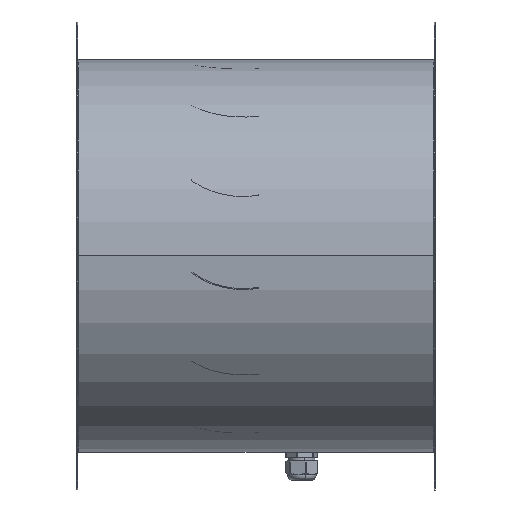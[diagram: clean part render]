
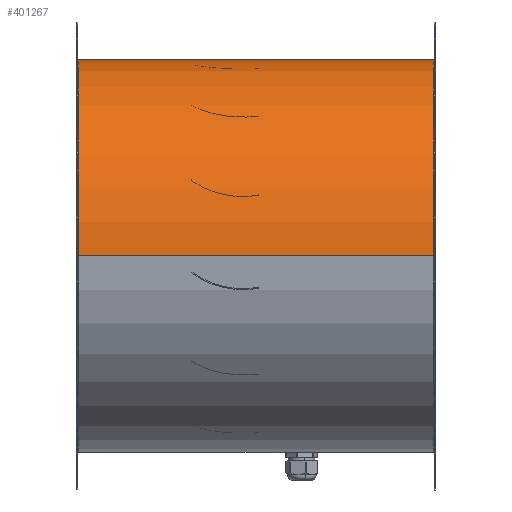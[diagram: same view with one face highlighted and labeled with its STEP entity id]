
A CAD part, top view. The second image highlights one B-rep face of the part: STEP entity #401267.
In plain terms, the highlighted cylindrical face has radius 201.25 mm (diameter 402.5 mm), a partial arc.
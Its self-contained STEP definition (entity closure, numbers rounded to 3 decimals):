
#7981 = CARTESIAN_POINT ( 'NONE',  ( -98.5, 0., 0. ) ) ;
#13992 = EDGE_CURVE ( 'NONE', #287199, #491824, #405591, .T. ) ;
#18054 = CIRCLE ( 'NONE', #318979, 201.25 ) ;
#22826 = EDGE_CURVE ( 'NONE', #661999, #25257, #532189, .T. ) ;
#25257 = VERTEX_POINT ( 'NONE', #758361 ) ;
#32754 = CARTESIAN_POINT ( 'NONE',  ( -98.5, 3.019, -201.227 ) ) ;
#41231 = DIRECTION ( 'NONE',  ( 1., 0., 0. ) ) ;
#49930 = CARTESIAN_POINT ( 'NONE',  ( -98.5, 3., -201.228 ) ) ;
#51093 = VECTOR ( 'NONE', #198356, 1000. ) ;
#55771 = DIRECTION ( 'NONE',  ( 1., 0., 0. ) ) ;
#64533 = CARTESIAN_POINT ( 'NONE',  ( -98.5, 0., 201.25 ) ) ;
#70181 = CARTESIAN_POINT ( 'NONE',  ( -98.5, 0., 0. ) ) ;
#76104 = DIRECTION ( 'NONE',  ( 0., 0., 1. ) ) ;
#85365 = CYLINDRICAL_SURFACE ( 'NONE', #192333, 201.25 ) ;
#93560 = LINE ( 'NONE', #266554, #51093 ) ;
#94176 = EDGE_CURVE ( 'NONE', #661999, #718602, #396982, .T. ) ;
#98494 = CARTESIAN_POINT ( 'NONE',  ( 264.5, 0., 0. ) ) ;
#100643 = LINE ( 'NONE', #64533, #641347 ) ;
#113373 = VERTEX_POINT ( 'NONE', #321137 ) ;
#127204 = CIRCLE ( 'NONE', #815843, 201.25 ) ;
#166608 = DIRECTION ( 'NONE',  ( 0., 0., 1. ) ) ;
#177507 = CARTESIAN_POINT ( 'NONE',  ( -98.5, 0., -201.25 ) ) ;
#178767 = VECTOR ( 'NONE', #41231, 1000. ) ;
#184152 = VERTEX_POINT ( 'NONE', #49930 ) ;
#187072 = CARTESIAN_POINT ( 'NONE',  ( 264.5, 3.019, -201.227 ) ) ;
#192333 = AXIS2_PLACEMENT_3D ( 'NONE', #70181, #206475, #339852 ) ;
#198356 = DIRECTION ( 'NONE',  ( 1., 0., 0. ) ) ;
#201185 = DIRECTION ( 'NONE',  ( 1., 0., 0. ) ) ;
#206475 = DIRECTION ( 'NONE',  ( 1., 0., 0. ) ) ;
#208612 = CARTESIAN_POINT ( 'NONE',  ( -99.125, 0., 0. ) ) ;
#212825 = VERTEX_POINT ( 'NONE', #32754 ) ;
#216640 = VERTEX_POINT ( 'NONE', #831837 ) ;
#226303 = EDGE_CURVE ( 'NONE', #25257, #184152, #18054, .T. ) ;
#246495 = EDGE_CURVE ( 'NONE', #363112, #113373, #833397, .T. ) ;
#262464 = CARTESIAN_POINT ( 'NONE',  ( 265.125, 0., -201.25 ) ) ;
#266554 = CARTESIAN_POINT ( 'NONE',  ( -98.5, 3.019, -201.227 ) ) ;
#276775 = DIRECTION ( 'NONE',  ( 0., 0., 1. ) ) ;
#284919 = CARTESIAN_POINT ( 'NONE',  ( -99.125, 0., 201.25 ) ) ;
#287199 = VERTEX_POINT ( 'NONE', #292578 ) ;
#292578 = CARTESIAN_POINT ( 'NONE',  ( 264.5, 3., -201.228 ) ) ;
#318979 = AXIS2_PLACEMENT_3D ( 'NONE', #7981, #482063, #76104 ) ;
#321137 = CARTESIAN_POINT ( 'NONE',  ( 265.125, 0., 201.25 ) ) ;
#330830 = ORIENTED_EDGE ( 'NONE', *, *, #226303, .F. ) ;
#339852 = DIRECTION ( 'NONE',  ( 0., 0., 1. ) ) ;
#348530 = DIRECTION ( 'NONE',  ( 1., 0., 0. ) ) ;
#356046 = EDGE_CURVE ( 'NONE', #184152, #212825, #127204, .T. ) ;
#359219 = AXIS2_PLACEMENT_3D ( 'NONE', #754323, #348530, #822498 ) ;
#363112 = VERTEX_POINT ( 'NONE', #262464 ) ;
#379839 = CARTESIAN_POINT ( 'NONE',  ( -98.5, 0., -201.25 ) ) ;
#396982 = CIRCLE ( 'NONE', #570448, 201.25 ) ;
#401267 = ADVANCED_FACE ( 'NONE', ( #626071 ), #85365, .T. ) ;
#402342 = DIRECTION ( 'NONE',  ( 1., 0., 0. ) ) ;
#402600 = ORIENTED_EDGE ( 'NONE', *, *, #13992, .T. ) ;
#405591 = CIRCLE ( 'NONE', #874072, 201.25 ) ;
#427362 = ORIENTED_EDGE ( 'NONE', *, *, #670726, .T. ) ;
#441598 = ORIENTED_EDGE ( 'NONE', *, *, #633805, .F. ) ;
#461714 = CARTESIAN_POINT ( 'NONE',  ( -98.5, 0., 0. ) ) ;
#482063 = DIRECTION ( 'NONE',  ( 1., 0., 0. ) ) ;
#491824 = VERTEX_POINT ( 'NONE', #187072 ) ;
#523531 = EDGE_LOOP ( 'NONE', ( #701746, #588931, #772069, #704701, #441598, #427362, #402600, #650633, #791253, #330830 ) ) ;
#529819 = DIRECTION ( 'NONE',  ( 0., 0., 1. ) ) ;
#532189 = LINE ( 'NONE', #379839, #691183 ) ;
#539305 = LINE ( 'NONE', #177507, #178767 ) ;
#570448 = AXIS2_PLACEMENT_3D ( 'NONE', #208612, #682609, #276775 ) ;
#572512 = DIRECTION ( 'NONE',  ( 1., 0., 0. ) ) ;
#588931 = ORIENTED_EDGE ( 'NONE', *, *, #94176, .T. ) ;
#607058 = CARTESIAN_POINT ( 'NONE',  ( 264.5, 0., 0. ) ) ;
#607406 = AXIS2_PLACEMENT_3D ( 'NONE', #98494, #572512, #166608 ) ;
#626071 = FACE_OUTER_BOUND ( 'NONE', #523531, .T. ) ;
#633805 = EDGE_CURVE ( 'NONE', #216640, #363112, #539305, .T. ) ;
#641347 = VECTOR ( 'NONE', #402342, 1000. ) ;
#650633 = ORIENTED_EDGE ( 'NONE', *, *, #785578, .F. ) ;
#661999 = VERTEX_POINT ( 'NONE', #680710 ) ;
#670726 = EDGE_CURVE ( 'NONE', #216640, #287199, #716980, .T. ) ;
#675211 = DIRECTION ( 'NONE',  ( 0., 0., 1. ) ) ;
#680710 = CARTESIAN_POINT ( 'NONE',  ( -99.125, 0., -201.25 ) ) ;
#682609 = DIRECTION ( 'NONE',  ( 1., 0., 0. ) ) ;
#691183 = VECTOR ( 'NONE', #785652, 1000. ) ;
#693543 = EDGE_CURVE ( 'NONE', #718602, #113373, #100643, .T. ) ;
#701746 = ORIENTED_EDGE ( 'NONE', *, *, #22826, .F. ) ;
#704701 = ORIENTED_EDGE ( 'NONE', *, *, #246495, .F. ) ;
#716980 = CIRCLE ( 'NONE', #607406, 201.25 ) ;
#718602 = VERTEX_POINT ( 'NONE', #284919 ) ;
#754323 = CARTESIAN_POINT ( 'NONE',  ( 265.125, 0., 0. ) ) ;
#758361 = CARTESIAN_POINT ( 'NONE',  ( -98.5, 0., -201.25 ) ) ;
#772069 = ORIENTED_EDGE ( 'NONE', *, *, #693543, .T. ) ;
#785578 = EDGE_CURVE ( 'NONE', #212825, #491824, #93560, .T. ) ;
#785652 = DIRECTION ( 'NONE',  ( 1., 0., 0. ) ) ;
#791253 = ORIENTED_EDGE ( 'NONE', *, *, #356046, .F. ) ;
#815843 = AXIS2_PLACEMENT_3D ( 'NONE', #461714, #55771, #529819 ) ;
#822498 = DIRECTION ( 'NONE',  ( 0., 0., 1. ) ) ;
#831837 = CARTESIAN_POINT ( 'NONE',  ( 264.5, 0., -201.25 ) ) ;
#833397 = CIRCLE ( 'NONE', #359219, 201.25 ) ;
#874072 = AXIS2_PLACEMENT_3D ( 'NONE', #607058, #201185, #675211 ) ;
